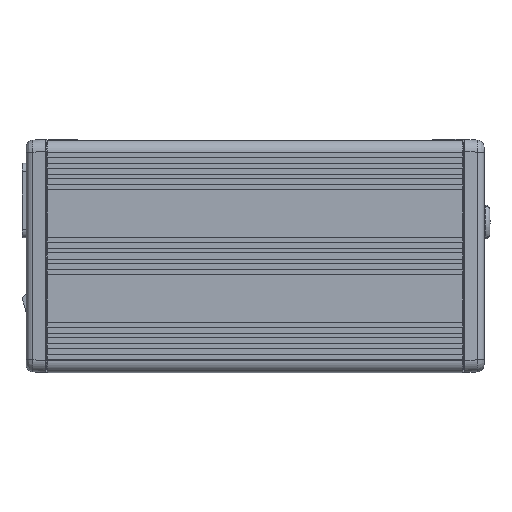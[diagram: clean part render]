
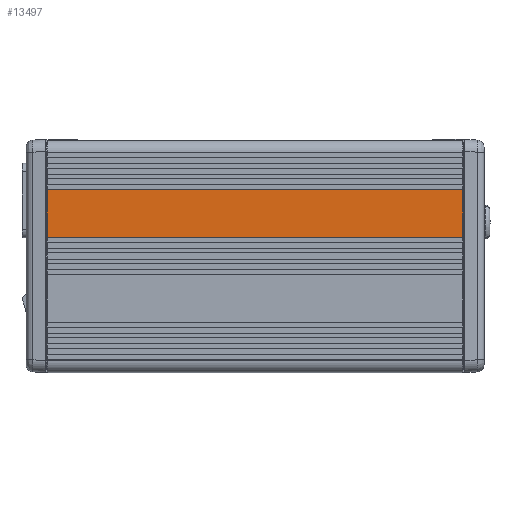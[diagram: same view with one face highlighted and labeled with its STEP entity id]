
A CAD part, front view. The second image highlights one B-rep face of the part: STEP entity #13497.
In plain terms, the highlighted planar face has unit normal (0, -1, 0) as drawn and (1, 0, 0) by its records, which use the part's own axes.
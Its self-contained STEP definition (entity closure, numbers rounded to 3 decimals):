
#13441=CARTESIAN_POINT('',(368.045,188.517,10.0));
#13442=VERTEX_POINT('',#13441);
#13449=CARTESIAN_POINT('',(368.045,188.517,182.4));
#13450=VERTEX_POINT('',#13449);
#13451=CARTESIAN_POINT('',(368.045,188.517,10.0));
#13452=DIRECTION('',(0.0,0.0,1.0));
#13453=VECTOR('',#13452,172.4);
#13454=LINE('',#13451,#13453);
#13455=EDGE_CURVE('',#13442,#13450,#13454,.T.);
#13467=CARTESIAN_POINT('',(368.045,206.267,0.0));
#13468=DIRECTION('',(1.0,0.0,0.0));
#13469=DIRECTION('',(0.0,0.0,-1.0));
#13470=AXIS2_PLACEMENT_3D('',#13467,#13468,#13469);
#13471=PLANE('',#13470);
#13472=CARTESIAN_POINT('',(368.045,208.267,10.0));
#13473=VERTEX_POINT('',#13472);
#13474=CARTESIAN_POINT('',(368.045,208.267,10.0));
#13475=DIRECTION('',(0.0,-1.0,0.0));
#13476=VECTOR('',#13475,19.75);
#13477=LINE('',#13474,#13476);
#13478=EDGE_CURVE('',#13473,#13442,#13477,.T.);
#13479=ORIENTED_EDGE('',*,*,#13478,.F.);
#13480=CARTESIAN_POINT('',(368.045,208.267,182.4));
#13481=VERTEX_POINT('',#13480);
#13482=CARTESIAN_POINT('',(368.045,208.267,10.0));
#13483=DIRECTION('',(0.0,0.0,1.0));
#13484=VECTOR('',#13483,172.4);
#13485=LINE('',#13482,#13484);
#13486=EDGE_CURVE('',#13473,#13481,#13485,.T.);
#13487=ORIENTED_EDGE('',*,*,#13486,.T.);
#13488=CARTESIAN_POINT('',(368.045,208.267,182.4));
#13489=DIRECTION('',(0.0,-1.0,0.0));
#13490=VECTOR('',#13489,19.75);
#13491=LINE('',#13488,#13490);
#13492=EDGE_CURVE('',#13481,#13450,#13491,.T.);
#13493=ORIENTED_EDGE('',*,*,#13492,.T.);
#13494=ORIENTED_EDGE('',*,*,#13455,.F.);
#13495=EDGE_LOOP('',(#13479,#13487,#13493,#13494));
#13496=FACE_OUTER_BOUND('',#13495,.T.);
#13497=ADVANCED_FACE('',(#13496),#13471,.T.);
